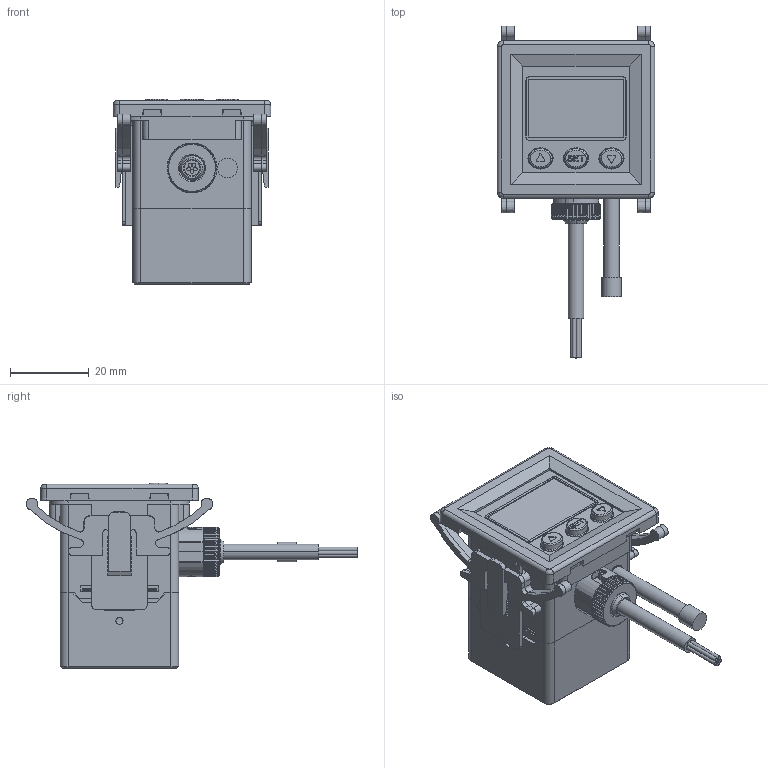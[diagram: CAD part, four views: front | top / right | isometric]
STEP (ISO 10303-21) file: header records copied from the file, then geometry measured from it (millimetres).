
FILE_DESCRIPTION((''),'2;1');
FILE_NAME('KDS_PA-E','2019-07-03T',('Stark'),(''),'CREO PARAMETRIC BY PTC INC, 2014500','CREO PARAMETRIC BY PTC INC, 2014500','');
FILE_SCHEMA(('CONFIG_CONTROL_DESIGN'));
Products named in the file (1): KDS_PA-E
Bounding box: 40 x 84.2 x 47.1 mm (x, y, z)
Volume: 47969 mm3; surface area: 17626.6 mm2
Topology: 1 solids, 1 shells, 1428 faces, 3856 edges, 2453 vertices
Faces by surface type: plane 672, cylinder 374, cone 204, bspline 132, torus 20, sphere 16, extrusion 10
Entity records: 59071 total; most frequent: CARTESIAN_POINT 25579, ORIENTED_EDGE 7708, DIRECTION 5877, EDGE_CURVE 3854, VERTEX_POINT 2453, VECTOR 1971, LINE 1961, AXIS2_PLACEMENT_3D 1953
